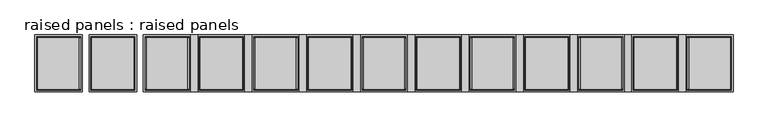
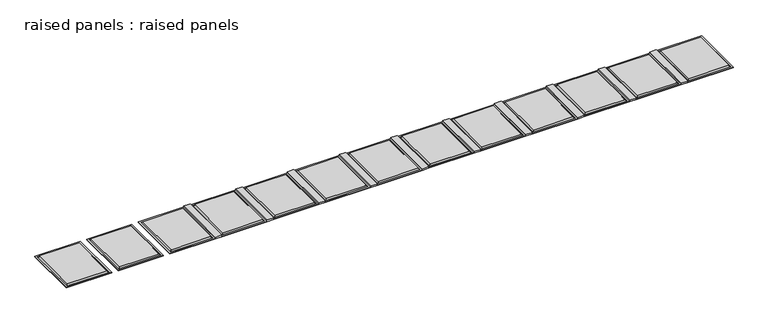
"""IFC4 building model written with IfcOpenShell, lengths in millimetres: furniture geometry, raised panels : raised panels."""

from ifc_helpers import new_model, si_unit, frame, origin, origin_with_axes, place, context, project, spatial, polyline, ellipse_curve, outline, extrude, source, transform, mapped, element, save
from ifc_brep_helpers import plane_surface, revolved_surface, advanced_brep


def raised_panels_raised_panels_2e637103(model_context):
    return source(origin(), model_context, "Body", "SolidModel", [
        advanced_brep(
        [(8426.45, 209.55, 19.05), (8426.45, 781.05, 19.05), (7961.9928571, 781.05, 19.05), (7961.9928571, 209.55, 19.05), (8458.2, 812.8, 0.0), (8458.2, 177.8, 0.0), (7930.2428571, 177.8, 0.0), (7930.2428571, 812.8, 0.0), (7930.2428571, 812.8, 6.35), (8458.2, 812.8, 6.35), (7930.2428571, 177.8, 6.35), (8458.2, 177.8, 6.35), (8439.15, 196.85, 6.35), (8439.15, 793.75, 6.35), (7949.2928571, 793.75, 6.35), (7949.2928571, 196.85, 6.35)],
        [
            (0, 1),
            (1, 2),
            (2, 3),
            (3, 0),
            (4, 5),
            (5, 6),
            (6, 7),
            (7, 4),
            (7, 8),
            (8, 9),
            (9, 4),
            (6, 10),
            (10, 8),
            (5, 11),
            (11, 10),
            (9, 11),
            (12, 13),
            (13, 1, ellipse_curve(frame((8439.15, 793.75, 19.05), z_axis=(-0.7071067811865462, 0.7071067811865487, 0.0), x_axis=(-0.7071067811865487, -0.7071067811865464, 0.0)), 17.9605122, 12.7)),
            (0, 12, ellipse_curve(frame((8439.15, 196.85, 19.05), z_axis=(-0.7071067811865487, -0.7071067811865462, 0.0), x_axis=(0.7071067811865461, -0.7071067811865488, 0.0)), 17.9605122, 12.7)),
            (13, 14),
            (14, 2, ellipse_curve(frame((7949.2928571, 793.75, 19.05), z_axis=(-0.7071067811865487, -0.7071067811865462, 0.0), x_axis=(0.7071067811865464, -0.7071067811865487, 0.0)), 17.9605122, 12.7)),
            (14, 15),
            (15, 3, ellipse_curve(frame((7949.2928571, 196.85, 19.05), z_axis=(0.7071067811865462, -0.7071067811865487, 0.0), x_axis=(0.7071067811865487, 0.7071067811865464, 0.0)), 17.9605122, 12.7)),
            (15, 12),
        ],
        [
            plane_surface(frame((8458.2, 812.8, 19.05), z_axis=(0.0, 0.0, 1.0), x_axis=(-1.0, 0.0, 0.0))),
            plane_surface(frame((8458.2, 812.8, 0.0), z_axis=(0.0, 0.0, -1.0), x_axis=(1.0, 0.0, 0.0))),
            plane_surface(frame((8458.2, 812.8, 19.05), z_axis=(0.0, 1.0, 0.0), x_axis=(0.0, 0.0, -1.0))),
            plane_surface(frame((7930.2428571, 812.8, 19.05), z_axis=(-1.0, 0.0, 0.0), x_axis=(0.0, 0.0, -1.0))),
            plane_surface(frame((7930.2428571, 177.8, 19.05), z_axis=(0.0, -1.0, 0.0), x_axis=(0.0, 0.0, -1.0))),
            plane_surface(frame((8458.2, 177.8, 19.05), z_axis=(1.0, 0.0, 0.0), x_axis=(0.0, 0.0, -1.0))),
            revolved_surface(polyline([(8426.449999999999, 184.15000002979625, 19.05), (8426.449999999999, 806.4499999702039, 19.05)]), (8439.15, 177.8, 19.05), (0.0, -1.0, 0.0)),
            revolved_surface(polyline([(8451.849999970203, 781.05, 19.05), (7936.592857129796, 781.05, 19.05)]), (8458.2, 793.75, 19.05), (1.0, 0.0, 0.0)),
            revolved_surface(polyline([(7961.9928571, 806.4499999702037, 19.05), (7961.9928571, 184.15000002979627, 19.05)]), (7949.2928571, 812.8, 19.05), (0.0, 1.0, 0.0)),
            revolved_surface(polyline([(7936.592857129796, 209.54999999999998, 19.05), (8451.849999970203, 209.54999999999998, 19.05)]), (7930.2428571, 196.85, 19.05), (-1.0, 0.0, 0.0)),
            plane_surface(frame((7949.2928571, 196.85, 6.35), z_axis=(0.0, 0.0, 1.0), x_axis=(1.0, 0.0, 0.0))),
        ],
        [
            (0, [[1, 2, 3, 4]]),
            (1, [[5, 6, 7, 8]]),
            (2, [[-8, 9, 10, 11]]),
            (3, [[-7, 12, 13, -9]]),
            (4, [[-6, 14, 15, -12]]),
            (5, [[-5, -11, 16, -14]]),
            (6, [[17, 18, -1, 19]]),
            (7, [[-18, 20, 21, -2]]),
            (8, [[-21, 22, 23, -3]]),
            (9, [[-19, -4, -23, 24]]),
            (10, [[-10, -13, -15, -16], [-17, -24, -22, -20]]),
        ],
    ),
        advanced_brep(
        [(7822.2928571, 209.55, 19.05), (7822.2928571, 781.05, 19.05), (7357.8357143, 781.05, 19.05), (7357.8357143, 209.55, 19.05), (7854.0428571, 812.8, 0.0), (7854.0428571, 177.8, 0.0), (7326.0857143, 177.8, 0.0), (7326.0857143, 812.8, 0.0), (7326.0857143, 812.8, 6.35), (7854.0428571, 812.8, 6.35), (7326.0857143, 177.8, 6.35), (7854.0428571, 177.8, 6.35), (7834.9928571, 196.85, 6.35), (7834.9928571, 793.75, 6.35), (7345.1357143, 793.75, 6.35), (7345.1357143, 196.85, 6.35)],
        [
            (0, 1),
            (1, 2),
            (2, 3),
            (3, 0),
            (4, 5),
            (5, 6),
            (6, 7),
            (7, 4),
            (7, 8),
            (8, 9),
            (9, 4),
            (6, 10),
            (10, 8),
            (5, 11),
            (11, 10),
            (9, 11),
            (12, 13),
            (13, 1, ellipse_curve(frame((7834.9928571, 793.75, 19.05), z_axis=(-0.7071067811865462, 0.7071067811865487, 0.0), x_axis=(-0.7071067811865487, -0.7071067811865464, 0.0)), 17.9605122, 12.7)),
            (0, 12, ellipse_curve(frame((7834.9928571, 196.85, 19.05), z_axis=(-0.7071067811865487, -0.7071067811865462, 0.0), x_axis=(0.7071067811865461, -0.7071067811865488, 0.0)), 17.9605122, 12.7)),
            (13, 14),
            (14, 2, ellipse_curve(frame((7345.1357143, 793.75, 19.05), z_axis=(-0.7071067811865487, -0.7071067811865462, 0.0), x_axis=(0.7071067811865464, -0.7071067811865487, 0.0)), 17.9605122, 12.7)),
            (14, 15),
            (15, 3, ellipse_curve(frame((7345.1357143, 196.85, 19.05), z_axis=(0.7071067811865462, -0.7071067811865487, 0.0), x_axis=(0.7071067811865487, 0.7071067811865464, 0.0)), 17.9605122, 12.7)),
            (15, 12),
        ],
        [
            plane_surface(frame((7854.0428571, 812.8, 19.05), z_axis=(0.0, 0.0, 1.0), x_axis=(-1.0, 0.0, 0.0))),
            plane_surface(frame((7854.0428571, 812.8, 0.0), z_axis=(0.0, 0.0, -1.0), x_axis=(1.0, 0.0, 0.0))),
            plane_surface(frame((7854.0428571, 812.8, 19.05), z_axis=(0.0, 1.0, 0.0), x_axis=(0.0, 0.0, -1.0))),
            plane_surface(frame((7326.0857143, 812.8, 19.05), z_axis=(-1.0, 0.0, 0.0), x_axis=(0.0, 0.0, -1.0))),
            plane_surface(frame((7326.0857143, 177.8, 19.05), z_axis=(0.0, -1.0, 0.0), x_axis=(0.0, 0.0, -1.0))),
            plane_surface(frame((7854.0428571, 177.8, 19.05), z_axis=(1.0, 0.0, 0.0), x_axis=(0.0, 0.0, -1.0))),
            revolved_surface(polyline([(7822.2928571, 184.15000002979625, 19.05), (7822.2928571, 806.4499999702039, 19.05)]), (7834.9928571, 177.8, 19.05), (0.0, -1.0, 0.0)),
            revolved_surface(polyline([(7847.692857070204, 781.05, 19.05), (7332.435714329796, 781.05, 19.05)]), (7854.0428571, 793.75, 19.05), (1.0, 0.0, 0.0)),
            revolved_surface(polyline([(7357.835714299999, 806.4499999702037, 19.05), (7357.835714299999, 184.15000002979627, 19.05)]), (7345.1357143, 812.8, 19.05), (0.0, 1.0, 0.0)),
            revolved_surface(polyline([(7332.435714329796, 209.54999999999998, 19.05), (7847.692857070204, 209.54999999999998, 19.05)]), (7326.0857143, 196.85, 19.05), (-1.0, 0.0, 0.0)),
            plane_surface(frame((7345.1357143, 196.85, 6.35), z_axis=(0.0, 0.0, 1.0), x_axis=(1.0, 0.0, 0.0))),
        ],
        [
            (0, [[1, 2, 3, 4]]),
            (1, [[5, 6, 7, 8]]),
            (2, [[-8, 9, 10, 11]]),
            (3, [[-7, 12, 13, -9]]),
            (4, [[-6, 14, 15, -12]]),
            (5, [[-5, -11, 16, -14]]),
            (6, [[17, 18, -1, 19]]),
            (7, [[-18, 20, 21, -2]]),
            (8, [[-21, 22, 23, -3]]),
            (9, [[-19, -4, -23, 24]]),
            (10, [[-10, -13, -15, -16], [-17, -24, -22, -20]]),
        ],
    ),
        advanced_brep(
        [(7218.1357143, 209.55, 19.05), (7218.1357143, 781.05, 19.05), (6753.6785714, 781.05, 19.05), (6753.6785714, 209.55, 19.05), (7249.8857143, 812.8, 0.0), (7249.8857143, 177.8, 0.0), (6721.9285714, 177.8, 0.0), (6721.9285714, 812.8, 0.0), (6721.9285714, 812.8, 6.35), (7249.8857143, 812.8, 6.35), (6721.9285714, 177.8, 6.35), (7249.8857143, 177.8, 6.35), (7230.8357143, 196.85, 6.35), (7230.8357143, 793.75, 6.35), (6740.9785714, 793.75, 6.35), (6740.9785714, 196.85, 6.35)],
        [
            (0, 1),
            (1, 2),
            (2, 3),
            (3, 0),
            (4, 5),
            (5, 6),
            (6, 7),
            (7, 4),
            (7, 8),
            (8, 9),
            (9, 4),
            (6, 10),
            (10, 8),
            (5, 11),
            (11, 10),
            (9, 11),
            (12, 13),
            (13, 1, ellipse_curve(frame((7230.8357143, 793.75, 19.05), z_axis=(-0.7071067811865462, 0.7071067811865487, 0.0), x_axis=(-0.7071067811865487, -0.7071067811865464, 0.0)), 17.9605122, 12.7)),
            (0, 12, ellipse_curve(frame((7230.8357143, 196.85, 19.05), z_axis=(-0.7071067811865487, -0.7071067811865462, 0.0), x_axis=(0.7071067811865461, -0.7071067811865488, 0.0)), 17.9605122, 12.7)),
            (13, 14),
            (14, 2, ellipse_curve(frame((6740.9785714, 793.75, 19.05), z_axis=(-0.7071067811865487, -0.7071067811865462, 0.0), x_axis=(0.7071067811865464, -0.7071067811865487, 0.0)), 17.9605122, 12.7)),
            (14, 15),
            (15, 3, ellipse_curve(frame((6740.9785714, 196.85, 19.05), z_axis=(0.7071067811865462, -0.7071067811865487, 0.0), x_axis=(0.7071067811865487, 0.7071067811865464, 0.0)), 17.9605122, 12.7)),
            (15, 12),
        ],
        [
            plane_surface(frame((7249.8857143, 812.8, 19.05), z_axis=(0.0, 0.0, 1.0), x_axis=(-1.0, 0.0, 0.0))),
            plane_surface(frame((7249.8857143, 812.8, 0.0), z_axis=(0.0, 0.0, -1.0), x_axis=(1.0, 0.0, 0.0))),
            plane_surface(frame((7249.8857143, 812.8, 19.05), z_axis=(0.0, 1.0, 0.0), x_axis=(0.0, 0.0, -1.0))),
            plane_surface(frame((6721.9285714, 812.8, 19.05), z_axis=(-1.0, 0.0, 0.0), x_axis=(0.0, 0.0, -1.0))),
            plane_surface(frame((6721.9285714, 177.8, 19.05), z_axis=(0.0, -1.0, 0.0), x_axis=(0.0, 0.0, -1.0))),
            plane_surface(frame((7249.8857143, 177.8, 19.05), z_axis=(1.0, 0.0, 0.0), x_axis=(0.0, 0.0, -1.0))),
            revolved_surface(polyline([(7218.1357143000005, 184.15000002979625, 19.05), (7218.1357143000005, 806.4499999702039, 19.05)]), (7230.8357143, 177.8, 19.05), (0.0, -1.0, 0.0)),
            revolved_surface(polyline([(7243.535714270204, 781.05, 19.05), (6728.278571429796, 781.05, 19.05)]), (7249.8857143, 793.75, 19.05), (1.0, 0.0, 0.0)),
            revolved_surface(polyline([(6753.6785714, 806.4499999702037, 19.05), (6753.6785714, 184.15000002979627, 19.05)]), (6740.9785714, 812.8, 19.05), (0.0, 1.0, 0.0)),
            revolved_surface(polyline([(6728.278571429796, 209.54999999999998, 19.05), (7243.535714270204, 209.54999999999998, 19.05)]), (6721.9285714, 196.85, 19.05), (-1.0, 0.0, 0.0)),
            plane_surface(frame((6740.9785714, 196.85, 6.35), z_axis=(0.0, 0.0, 1.0), x_axis=(1.0, 0.0, 0.0))),
        ],
        [
            (0, [[1, 2, 3, 4]]),
            (1, [[5, 6, 7, 8]]),
            (2, [[-8, 9, 10, 11]]),
            (3, [[-7, 12, 13, -9]]),
            (4, [[-6, 14, 15, -12]]),
            (5, [[-5, -11, 16, -14]]),
            (6, [[17, 18, -1, 19]]),
            (7, [[-18, 20, 21, -2]]),
            (8, [[-21, 22, 23, -3]]),
            (9, [[-19, -4, -23, 24]]),
            (10, [[-10, -13, -15, -16], [-17, -24, -22, -20]]),
        ],
    ),
        advanced_brep(
        [(6613.9785714, 209.55, 19.05), (6613.9785714, 781.05, 19.05), (6149.5214286, 781.05, 19.05), (6149.5214286, 209.55, 19.05), (6645.7285714, 812.8, 0.0), (6645.7285714, 177.8, 0.0), (6117.7714286, 177.8, 0.0), (6117.7714286, 812.8, 0.0), (6117.7714286, 812.8, 6.35), (6645.7285714, 812.8, 6.35), (6117.7714286, 177.8, 6.35), (6645.7285714, 177.8, 6.35), (6626.6785714, 196.85, 6.35), (6626.6785714, 793.75, 6.35), (6136.8214286, 793.75, 6.35), (6136.8214286, 196.85, 6.35)],
        [
            (0, 1),
            (1, 2),
            (2, 3),
            (3, 0),
            (4, 5),
            (5, 6),
            (6, 7),
            (7, 4),
            (7, 8),
            (8, 9),
            (9, 4),
            (6, 10),
            (10, 8),
            (5, 11),
            (11, 10),
            (9, 11),
            (12, 13),
            (13, 1, ellipse_curve(frame((6626.6785714, 793.75, 19.05), z_axis=(-0.7071067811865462, 0.7071067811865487, 0.0), x_axis=(-0.7071067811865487, -0.7071067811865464, 0.0)), 17.9605122, 12.7)),
            (0, 12, ellipse_curve(frame((6626.6785714, 196.85, 19.05), z_axis=(-0.7071067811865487, -0.7071067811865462, 0.0), x_axis=(0.7071067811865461, -0.7071067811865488, 0.0)), 17.9605122, 12.7)),
            (13, 14),
            (14, 2, ellipse_curve(frame((6136.8214286, 793.75, 19.05), z_axis=(-0.7071067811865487, -0.7071067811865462, 0.0), x_axis=(0.7071067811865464, -0.7071067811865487, 0.0)), 17.9605122, 12.7)),
            (14, 15),
            (15, 3, ellipse_curve(frame((6136.8214286, 196.85, 19.05), z_axis=(0.7071067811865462, -0.7071067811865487, 0.0), x_axis=(0.7071067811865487, 0.7071067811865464, 0.0)), 17.9605122, 12.7)),
            (15, 12),
        ],
        [
            plane_surface(frame((6645.7285714, 812.8, 19.05), z_axis=(0.0, 0.0, 1.0), x_axis=(-1.0, 0.0, 0.0))),
            plane_surface(frame((6645.7285714, 812.8, 0.0), z_axis=(0.0, 0.0, -1.0), x_axis=(1.0, 0.0, 0.0))),
            plane_surface(frame((6645.7285714, 812.8, 19.05), z_axis=(0.0, 1.0, 0.0), x_axis=(0.0, 0.0, -1.0))),
            plane_surface(frame((6117.7714286, 812.8, 19.05), z_axis=(-1.0, 0.0, 0.0), x_axis=(0.0, 0.0, -1.0))),
            plane_surface(frame((6117.7714286, 177.8, 19.05), z_axis=(0.0, -1.0, 0.0), x_axis=(0.0, 0.0, -1.0))),
            plane_surface(frame((6645.7285714, 177.8, 19.05), z_axis=(1.0, 0.0, 0.0), x_axis=(0.0, 0.0, -1.0))),
            revolved_surface(polyline([(6613.9785714, 184.15000002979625, 19.05), (6613.9785714, 806.4499999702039, 19.05)]), (6626.6785714, 177.8, 19.05), (0.0, -1.0, 0.0)),
            revolved_surface(polyline([(6639.378571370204, 781.05, 19.05), (6124.121428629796, 781.05, 19.05)]), (6645.7285714, 793.75, 19.05), (1.0, 0.0, 0.0)),
            revolved_surface(polyline([(6149.5214286, 806.4499999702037, 19.05), (6149.5214286, 184.15000002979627, 19.05)]), (6136.8214286, 812.8, 19.05), (0.0, 1.0, 0.0)),
            revolved_surface(polyline([(6124.121428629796, 209.54999999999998, 19.05), (6639.378571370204, 209.54999999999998, 19.05)]), (6117.7714286, 196.85, 19.05), (-1.0, 0.0, 0.0)),
            plane_surface(frame((6136.8214286, 196.85, 6.35), z_axis=(0.0, 0.0, 1.0), x_axis=(1.0, 0.0, 0.0))),
        ],
        [
            (0, [[1, 2, 3, 4]]),
            (1, [[5, 6, 7, 8]]),
            (2, [[-8, 9, 10, 11]]),
            (3, [[-7, 12, 13, -9]]),
            (4, [[-6, 14, 15, -12]]),
            (5, [[-5, -11, 16, -14]]),
            (6, [[17, 18, -1, 19]]),
            (7, [[-18, 20, 21, -2]]),
            (8, [[-21, 22, 23, -3]]),
            (9, [[-19, -4, -23, 24]]),
            (10, [[-10, -13, -15, -16], [-17, -24, -22, -20]]),
        ],
    ),
        advanced_brep(
        [(6009.8214286, 209.55, 19.05), (6009.8214286, 781.05, 19.05), (5545.3642857, 781.05, 19.05), (5545.3642857, 209.55, 19.05), (6041.5714286, 812.8, 0.0), (6041.5714286, 177.8, 0.0), (5513.6142857, 177.8, 0.0), (5513.6142857, 812.8, 0.0), (5513.6142857, 812.8, 6.35), (6041.5714286, 812.8, 6.35), (5513.6142857, 177.8, 6.35), (6041.5714286, 177.8, 6.35), (6022.5214286, 196.85, 6.35), (6022.5214286, 793.75, 6.35), (5532.6642857, 793.75, 6.35), (5532.6642857, 196.85, 6.35)],
        [
            (0, 1),
            (1, 2),
            (2, 3),
            (3, 0),
            (4, 5),
            (5, 6),
            (6, 7),
            (7, 4),
            (7, 8),
            (8, 9),
            (9, 4),
            (6, 10),
            (10, 8),
            (5, 11),
            (11, 10),
            (9, 11),
            (12, 13),
            (13, 1, ellipse_curve(frame((6022.5214286, 793.75, 19.05), z_axis=(-0.7071067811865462, 0.7071067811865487, 0.0), x_axis=(-0.7071067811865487, -0.7071067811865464, 0.0)), 17.9605122, 12.7)),
            (0, 12, ellipse_curve(frame((6022.5214286, 196.85, 19.05), z_axis=(-0.7071067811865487, -0.7071067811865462, 0.0), x_axis=(0.7071067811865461, -0.7071067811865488, 0.0)), 17.9605122, 12.7)),
            (13, 14),
            (14, 2, ellipse_curve(frame((5532.6642857, 793.75, 19.05), z_axis=(-0.7071067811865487, -0.7071067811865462, 0.0), x_axis=(0.7071067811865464, -0.7071067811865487, 0.0)), 17.9605122, 12.7)),
            (14, 15),
            (15, 3, ellipse_curve(frame((5532.6642857, 196.85, 19.05), z_axis=(0.7071067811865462, -0.7071067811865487, 0.0), x_axis=(0.7071067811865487, 0.7071067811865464, 0.0)), 17.9605122, 12.7)),
            (15, 12),
        ],
        [
            plane_surface(frame((6041.5714286, 812.8, 19.05), z_axis=(0.0, 0.0, 1.0), x_axis=(-1.0, 0.0, 0.0))),
            plane_surface(frame((6041.5714286, 812.8, 0.0), z_axis=(0.0, 0.0, -1.0), x_axis=(1.0, 0.0, 0.0))),
            plane_surface(frame((6041.5714286, 812.8, 19.05), z_axis=(0.0, 1.0, 0.0), x_axis=(0.0, 0.0, -1.0))),
            plane_surface(frame((5513.6142857, 812.8, 19.05), z_axis=(-1.0, 0.0, 0.0), x_axis=(0.0, 0.0, -1.0))),
            plane_surface(frame((5513.6142857, 177.8, 19.05), z_axis=(0.0, -1.0, 0.0), x_axis=(0.0, 0.0, -1.0))),
            plane_surface(frame((6041.5714286, 177.8, 19.05), z_axis=(1.0, 0.0, 0.0), x_axis=(0.0, 0.0, -1.0))),
            revolved_surface(polyline([(6009.8214286, 184.15000002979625, 19.05), (6009.8214286, 806.4499999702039, 19.05)]), (6022.5214286, 177.8, 19.05), (0.0, -1.0, 0.0)),
            revolved_surface(polyline([(6035.221428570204, 781.05, 19.05), (5519.964285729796, 781.05, 19.05)]), (6041.5714286, 793.75, 19.05), (1.0, 0.0, 0.0)),
            revolved_surface(polyline([(5545.3642856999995, 806.4499999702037, 19.05), (5545.3642856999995, 184.15000002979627, 19.05)]), (5532.6642857, 812.8, 19.05), (0.0, 1.0, 0.0)),
            revolved_surface(polyline([(5519.964285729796, 209.54999999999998, 19.05), (6035.221428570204, 209.54999999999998, 19.05)]), (5513.6142857, 196.85, 19.05), (-1.0, 0.0, 0.0)),
            plane_surface(frame((5532.6642857, 196.85, 6.35), z_axis=(0.0, 0.0, 1.0), x_axis=(1.0, 0.0, 0.0))),
        ],
        [
            (0, [[1, 2, 3, 4]]),
            (1, [[5, 6, 7, 8]]),
            (2, [[-8, 9, 10, 11]]),
            (3, [[-7, 12, 13, -9]]),
            (4, [[-6, 14, 15, -12]]),
            (5, [[-5, -11, 16, -14]]),
            (6, [[17, 18, -1, 19]]),
            (7, [[-18, 20, 21, -2]]),
            (8, [[-21, 22, 23, -3]]),
            (9, [[-19, -4, -23, 24]]),
            (10, [[-10, -13, -15, -16], [-17, -24, -22, -20]]),
        ],
    ),
        advanced_brep(
        [(5405.6642857, 209.55, 19.05), (5405.6642857, 781.05, 19.05), (4941.2071429, 781.05, 19.05), (4941.2071429, 209.55, 19.05), (5437.4142857, 812.8, 0.0), (5437.4142857, 177.8, 0.0), (4909.4571429, 177.8, 0.0), (4909.4571429, 812.8, 0.0), (4909.4571429, 812.8, 6.35), (5437.4142857, 812.8, 6.35), (4909.4571429, 177.8, 6.35), (5437.4142857, 177.8, 6.35), (5418.3642857, 196.85, 6.35), (5418.3642857, 793.75, 6.35), (4928.5071429, 793.75, 6.35), (4928.5071429, 196.85, 6.35)],
        [
            (0, 1),
            (1, 2),
            (2, 3),
            (3, 0),
            (4, 5),
            (5, 6),
            (6, 7),
            (7, 4),
            (7, 8),
            (8, 9),
            (9, 4),
            (6, 10),
            (10, 8),
            (5, 11),
            (11, 10),
            (9, 11),
            (12, 13),
            (13, 1, ellipse_curve(frame((5418.3642857, 793.75, 19.05), z_axis=(-0.7071067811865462, 0.7071067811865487, 0.0), x_axis=(-0.7071067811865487, -0.7071067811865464, 0.0)), 17.9605122, 12.7)),
            (0, 12, ellipse_curve(frame((5418.3642857, 196.85, 19.05), z_axis=(-0.7071067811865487, -0.7071067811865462, 0.0), x_axis=(0.7071067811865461, -0.7071067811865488, 0.0)), 17.9605122, 12.7)),
            (13, 14),
            (14, 2, ellipse_curve(frame((4928.5071429, 793.75, 19.05), z_axis=(-0.7071067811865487, -0.7071067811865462, 0.0), x_axis=(0.7071067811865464, -0.7071067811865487, 0.0)), 17.9605122, 12.7)),
            (14, 15),
            (15, 3, ellipse_curve(frame((4928.5071429, 196.85, 19.05), z_axis=(0.7071067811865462, -0.7071067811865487, 0.0), x_axis=(0.7071067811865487, 0.7071067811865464, 0.0)), 17.9605122, 12.7)),
            (15, 12),
        ],
        [
            plane_surface(frame((5437.4142857, 812.8, 19.05), z_axis=(0.0, 0.0, 1.0), x_axis=(-1.0, 0.0, 0.0))),
            plane_surface(frame((5437.4142857, 812.8, 0.0), z_axis=(0.0, 0.0, -1.0), x_axis=(1.0, 0.0, 0.0))),
            plane_surface(frame((5437.4142857, 812.8, 19.05), z_axis=(0.0, 1.0, 0.0), x_axis=(0.0, 0.0, -1.0))),
            plane_surface(frame((4909.4571429, 812.8, 19.05), z_axis=(-1.0, 0.0, 0.0), x_axis=(0.0, 0.0, -1.0))),
            plane_surface(frame((4909.4571429, 177.8, 19.05), z_axis=(0.0, -1.0, 0.0), x_axis=(0.0, 0.0, -1.0))),
            plane_surface(frame((5437.4142857, 177.8, 19.05), z_axis=(1.0, 0.0, 0.0), x_axis=(0.0, 0.0, -1.0))),
            revolved_surface(polyline([(5405.664285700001, 184.15000002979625, 19.05), (5405.664285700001, 806.4499999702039, 19.05)]), (5418.3642857, 177.8, 19.05), (0.0, -1.0, 0.0)),
            revolved_surface(polyline([(5431.064285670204, 781.05, 19.05), (4915.807142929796, 781.05, 19.05)]), (5437.4142857, 793.75, 19.05), (1.0, 0.0, 0.0)),
            revolved_surface(polyline([(4941.2071429, 806.4499999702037, 19.05), (4941.2071429, 184.15000002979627, 19.05)]), (4928.5071429, 812.8, 19.05), (0.0, 1.0, 0.0)),
            revolved_surface(polyline([(4915.807142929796, 209.54999999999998, 19.05), (5431.064285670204, 209.54999999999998, 19.05)]), (4909.4571429, 196.85, 19.05), (-1.0, 0.0, 0.0)),
            plane_surface(frame((4928.5071429, 196.85, 6.35), z_axis=(0.0, 0.0, 1.0), x_axis=(1.0, 0.0, 0.0))),
        ],
        [
            (0, [[1, 2, 3, 4]]),
            (1, [[5, 6, 7, 8]]),
            (2, [[-8, 9, 10, 11]]),
            (3, [[-7, 12, 13, -9]]),
            (4, [[-6, 14, 15, -12]]),
            (5, [[-5, -11, 16, -14]]),
            (6, [[17, 18, -1, 19]]),
            (7, [[-18, 20, 21, -2]]),
            (8, [[-21, 22, 23, -3]]),
            (9, [[-19, -4, -23, 24]]),
            (10, [[-10, -13, -15, -16], [-17, -24, -22, -20]]),
        ],
    ),
        advanced_brep(
        [(4801.5071429, 209.55, 19.05), (4801.5071429, 781.05, 19.05), (4337.05, 781.05, 19.05), (4337.05, 209.55, 19.05), (4833.2571429, 812.8, 0.0), (4833.2571429, 177.8, 0.0), (4305.3, 177.8, 0.0), (4305.3, 812.8, 0.0), (4305.3, 812.8, 6.35), (4833.2571429, 812.8, 6.35), (4305.3, 177.8, 6.35), (4833.2571429, 177.8, 6.35), (4814.2071429, 196.85, 6.35), (4814.2071429, 793.75, 6.35), (4324.35, 793.75, 6.35), (4324.35, 196.85, 6.35)],
        [
            (0, 1),
            (1, 2),
            (2, 3),
            (3, 0),
            (4, 5),
            (5, 6),
            (6, 7),
            (7, 4),
            (7, 8),
            (8, 9),
            (9, 4),
            (6, 10),
            (10, 8),
            (5, 11),
            (11, 10),
            (9, 11),
            (12, 13),
            (13, 1, ellipse_curve(frame((4814.2071429, 793.75, 19.05), z_axis=(-0.7071067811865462, 0.7071067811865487, 0.0), x_axis=(-0.7071067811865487, -0.7071067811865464, 0.0)), 17.9605122, 12.7)),
            (0, 12, ellipse_curve(frame((4814.2071429, 196.85, 19.05), z_axis=(-0.7071067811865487, -0.7071067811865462, 0.0), x_axis=(0.7071067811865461, -0.7071067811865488, 0.0)), 17.9605122, 12.7)),
            (13, 14),
            (14, 2, ellipse_curve(frame((4324.35, 793.75, 19.05), z_axis=(-0.7071067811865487, -0.7071067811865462, 0.0), x_axis=(0.7071067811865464, -0.7071067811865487, 0.0)), 17.9605122, 12.7)),
            (14, 15),
            (15, 3, ellipse_curve(frame((4324.35, 196.85, 19.05), z_axis=(0.7071067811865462, -0.7071067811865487, 0.0), x_axis=(0.7071067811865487, 0.7071067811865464, 0.0)), 17.9605122, 12.7)),
            (15, 12),
        ],
        [
            plane_surface(frame((4833.2571429, 812.8, 19.05), z_axis=(0.0, 0.0, 1.0), x_axis=(-1.0, 0.0, 0.0))),
            plane_surface(frame((4833.2571429, 812.8, 0.0), z_axis=(0.0, 0.0, -1.0), x_axis=(1.0, 0.0, 0.0))),
            plane_surface(frame((4833.2571429, 812.8, 19.05), z_axis=(0.0, 1.0, 0.0), x_axis=(0.0, 0.0, -1.0))),
            plane_surface(frame((4305.3, 812.8, 19.05), z_axis=(-1.0, 0.0, 0.0), x_axis=(0.0, 0.0, -1.0))),
            plane_surface(frame((4305.3, 177.8, 19.05), z_axis=(0.0, -1.0, 0.0), x_axis=(0.0, 0.0, -1.0))),
            plane_surface(frame((4833.2571429, 177.8, 19.05), z_axis=(1.0, 0.0, 0.0), x_axis=(0.0, 0.0, -1.0))),
            revolved_surface(polyline([(4801.5071429, 184.15000002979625, 19.05), (4801.5071429, 806.4499999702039, 19.05)]), (4814.2071429, 177.8, 19.05), (0.0, -1.0, 0.0)),
            revolved_surface(polyline([(4826.907142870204, 781.05, 19.05), (4311.6500000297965, 781.05, 19.05)]), (4833.2571429, 793.75, 19.05), (1.0, 0.0, 0.0)),
            revolved_surface(polyline([(4337.05, 806.4499999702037, 19.05), (4337.05, 184.15000002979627, 19.05)]), (4324.35, 812.8, 19.05), (0.0, 1.0, 0.0)),
            revolved_surface(polyline([(4311.6500000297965, 209.54999999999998, 19.05), (4826.907142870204, 209.54999999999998, 19.05)]), (4305.3, 196.85, 19.05), (-1.0, 0.0, 0.0)),
            plane_surface(frame((4324.35, 196.85, 6.35), z_axis=(0.0, 0.0, 1.0), x_axis=(1.0, 0.0, 0.0))),
        ],
        [
            (0, [[1, 2, 3, 4]]),
            (1, [[5, 6, 7, 8]]),
            (2, [[-8, 9, 10, 11]]),
            (3, [[-7, 12, 13, -9]]),
            (4, [[-6, 14, 15, -12]]),
            (5, [[-5, -11, 16, -14]]),
            (6, [[17, 18, -1, 19]]),
            (7, [[-18, 20, 21, -2]]),
            (8, [[-21, 22, 23, -3]]),
            (9, [[-19, -4, -23, 24]]),
            (10, [[-10, -13, -15, -16], [-17, -24, -22, -20]]),
        ],
    ),
        extrude(outline(polyline([(7930.2428571, 177.8), (7854.0428571, 177.8), (7854.0428571, 812.8), (7930.2428571, 812.8), (7930.2428571, 177.8)])), origin_with_axes(), (0.0, 0.0, 1.0), 19.05),
        extrude(outline(polyline([(7326.0857143, 177.8), (7249.8857143, 177.8), (7249.8857143, 812.8), (7326.0857143, 812.8), (7326.0857143, 177.8)])), origin_with_axes(), (0.0, 0.0, 1.0), 19.05),
        extrude(outline(polyline([(6721.9285714, 177.8), (6645.7285714, 177.8), (6645.7285714, 812.8), (6721.9285714, 812.8), (6721.9285714, 177.8)])), origin_with_axes(), (0.0, 0.0, 1.0), 19.05),
        extrude(outline(polyline([(6117.7714286, 177.8), (6041.5714286, 177.8), (6041.5714286, 812.8), (6117.7714286, 812.8), (6117.7714286, 177.8)])), origin_with_axes(), (0.0, 0.0, 1.0), 19.05),
        extrude(outline(polyline([(5513.6142857, 177.8), (5437.4142857, 177.8), (5437.4142857, 812.8), (5513.6142857, 812.8), (5513.6142857, 177.8)])), origin_with_axes(), (0.0, 0.0, 1.0), 19.05),
        extrude(outline(polyline([(4909.4571429, 177.8), (4833.2571429, 177.8), (4833.2571429, 812.8), (4909.4571429, 812.8), (4909.4571429, 177.8)])), origin_with_axes(), (0.0, 0.0, 1.0), 19.05),
        extrude(outline(polyline([(4305.3, 177.8), (4229.1, 177.8), (4229.1, 812.8), (4305.3, 812.8), (4305.3, 177.8)])), origin_with_axes(), (0.0, 0.0, 1.0), 19.05),
        advanced_brep(
        [(4197.35, 209.55, 19.05), (4197.35, 781.05, 19.05), (3732.8928571, 781.05, 19.05), (3732.8928571, 209.55, 19.05), (4229.1, 812.8, 0.0), (4229.1, 177.8, 0.0), (3701.1428571, 177.8, 0.0), (3701.1428571, 812.8, 0.0), (3701.1428571, 812.8, 6.35), (4229.1, 812.8, 6.35), (3701.1428571, 177.8, 6.35), (4229.1, 177.8, 6.35), (4210.05, 196.85, 6.35), (4210.05, 793.75, 6.35), (3720.1928571, 793.75, 6.35), (3720.1928571, 196.85, 6.35)],
        [
            (0, 1),
            (1, 2),
            (2, 3),
            (3, 0),
            (4, 5),
            (5, 6),
            (6, 7),
            (7, 4),
            (7, 8),
            (8, 9),
            (9, 4),
            (6, 10),
            (10, 8),
            (5, 11),
            (11, 10),
            (9, 11),
            (12, 13),
            (13, 1, ellipse_curve(frame((4210.05, 793.75, 19.05), z_axis=(-0.7071067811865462, 0.7071067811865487, 0.0), x_axis=(-0.7071067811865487, -0.7071067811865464, 0.0)), 17.9605122, 12.7)),
            (0, 12, ellipse_curve(frame((4210.05, 196.85, 19.05), z_axis=(-0.7071067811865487, -0.7071067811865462, 0.0), x_axis=(0.7071067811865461, -0.7071067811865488, 0.0)), 17.9605122, 12.7)),
            (13, 14),
            (14, 2, ellipse_curve(frame((3720.1928571, 793.75, 19.05), z_axis=(-0.7071067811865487, -0.7071067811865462, 0.0), x_axis=(0.7071067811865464, -0.7071067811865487, 0.0)), 17.9605122, 12.7)),
            (14, 15),
            (15, 3, ellipse_curve(frame((3720.1928571, 196.85, 19.05), z_axis=(0.7071067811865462, -0.7071067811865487, 0.0), x_axis=(0.7071067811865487, 0.7071067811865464, 0.0)), 17.9605122, 12.7)),
            (15, 12),
        ],
        [
            plane_surface(frame((4229.1, 812.8, 19.05), z_axis=(0.0, 0.0, 1.0), x_axis=(-1.0, 0.0, 0.0))),
            plane_surface(frame((4229.1, 812.8, 0.0), z_axis=(0.0, 0.0, -1.0), x_axis=(1.0, 0.0, 0.0))),
            plane_surface(frame((4229.1, 812.8, 19.05), z_axis=(0.0, 1.0, 0.0), x_axis=(0.0, 0.0, -1.0))),
            plane_surface(frame((3701.1428571, 812.8, 19.05), z_axis=(-1.0, 0.0, 0.0), x_axis=(0.0, 0.0, -1.0))),
            plane_surface(frame((3701.1428571, 177.8, 19.05), z_axis=(0.0, -1.0, 0.0), x_axis=(0.0, 0.0, -1.0))),
            plane_surface(frame((4229.1, 177.8, 19.05), z_axis=(1.0, 0.0, 0.0), x_axis=(0.0, 0.0, -1.0))),
            revolved_surface(polyline([(4197.35, 184.15000002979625, 19.05), (4197.35, 806.4499999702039, 19.05)]), (4210.05, 177.8, 19.05), (0.0, -1.0, 0.0)),
            revolved_surface(polyline([(4222.749999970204, 781.05, 19.05), (3707.492857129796, 781.05, 19.05)]), (4229.1, 793.75, 19.05), (1.0, 0.0, 0.0)),
            revolved_surface(polyline([(3732.8928570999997, 806.4499999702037, 19.05), (3732.8928570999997, 184.15000002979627, 19.05)]), (3720.1928571, 812.8, 19.05), (0.0, 1.0, 0.0)),
            revolved_surface(polyline([(3707.492857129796, 209.54999999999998, 19.05), (4222.749999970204, 209.54999999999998, 19.05)]), (3701.1428571, 196.85, 19.05), (-1.0, 0.0, 0.0)),
            plane_surface(frame((3720.1928571, 196.85, 6.35), z_axis=(0.0, 0.0, 1.0), x_axis=(1.0, 0.0, 0.0))),
        ],
        [
            (0, [[1, 2, 3, 4]]),
            (1, [[5, 6, 7, 8]]),
            (2, [[-8, 9, 10, 11]]),
            (3, [[-7, 12, 13, -9]]),
            (4, [[-6, 14, 15, -12]]),
            (5, [[-5, -11, 16, -14]]),
            (6, [[17, 18, -1, 19]]),
            (7, [[-18, 20, 21, -2]]),
            (8, [[-21, 22, 23, -3]]),
            (9, [[-19, -4, -23, 24]]),
            (10, [[-10, -13, -15, -16], [-17, -24, -22, -20]]),
        ],
    ),
        advanced_brep(
        [(3593.1928571, 209.55, 19.05), (3593.1928571, 781.05, 19.05), (3128.7357143, 781.05, 19.05), (3128.7357143, 209.55, 19.05), (3624.9428571, 812.8, 0.0), (3624.9428571, 177.8, 0.0), (3096.9857143, 177.8, 0.0), (3096.9857143, 812.8, 0.0), (3096.9857143, 812.8, 6.35), (3624.9428571, 812.8, 6.35), (3096.9857143, 177.8, 6.35), (3624.9428571, 177.8, 6.35), (3605.8928571, 196.85, 6.35), (3605.8928571, 793.75, 6.35), (3116.0357143, 793.75, 6.35), (3116.0357143, 196.85, 6.35)],
        [
            (0, 1),
            (1, 2),
            (2, 3),
            (3, 0),
            (4, 5),
            (5, 6),
            (6, 7),
            (7, 4),
            (7, 8),
            (8, 9),
            (9, 4),
            (6, 10),
            (10, 8),
            (5, 11),
            (11, 10),
            (9, 11),
            (12, 13),
            (13, 1, ellipse_curve(frame((3605.8928571, 793.75, 19.05), z_axis=(-0.7071067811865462, 0.7071067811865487, 0.0), x_axis=(-0.7071067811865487, -0.7071067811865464, 0.0)), 17.9605122, 12.7)),
            (0, 12, ellipse_curve(frame((3605.8928571, 196.85, 19.05), z_axis=(-0.7071067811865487, -0.7071067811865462, 0.0), x_axis=(0.7071067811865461, -0.7071067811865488, 0.0)), 17.9605122, 12.7)),
            (13, 14),
            (14, 2, ellipse_curve(frame((3116.0357143, 793.75, 19.05), z_axis=(-0.7071067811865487, -0.7071067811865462, 0.0), x_axis=(0.7071067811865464, -0.7071067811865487, 0.0)), 17.9605122, 12.7)),
            (14, 15),
            (15, 3, ellipse_curve(frame((3116.0357143, 196.85, 19.05), z_axis=(0.7071067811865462, -0.7071067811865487, 0.0), x_axis=(0.7071067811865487, 0.7071067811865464, 0.0)), 17.9605122, 12.7)),
            (15, 12),
        ],
        [
            plane_surface(frame((3624.9428571, 812.8, 19.05), z_axis=(0.0, 0.0, 1.0), x_axis=(-1.0, 0.0, 0.0))),
            plane_surface(frame((3624.9428571, 812.8, 0.0), z_axis=(0.0, 0.0, -1.0), x_axis=(1.0, 0.0, 0.0))),
            plane_surface(frame((3624.9428571, 812.8, 19.05), z_axis=(0.0, 1.0, 0.0), x_axis=(0.0, 0.0, -1.0))),
            plane_surface(frame((3096.9857143, 812.8, 19.05), z_axis=(-1.0, 0.0, 0.0), x_axis=(0.0, 0.0, -1.0))),
            plane_surface(frame((3096.9857143, 177.8, 19.05), z_axis=(0.0, -1.0, 0.0), x_axis=(0.0, 0.0, -1.0))),
            plane_surface(frame((3624.9428571, 177.8, 19.05), z_axis=(1.0, 0.0, 0.0), x_axis=(0.0, 0.0, -1.0))),
            revolved_surface(polyline([(3593.1928571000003, 184.15000002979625, 19.05), (3593.1928571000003, 806.4499999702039, 19.05)]), (3605.8928571, 177.8, 19.05), (0.0, -1.0, 0.0)),
            revolved_surface(polyline([(3618.592857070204, 781.05, 19.05), (3103.3357143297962, 781.05, 19.05)]), (3624.9428571, 793.75, 19.05), (1.0, 0.0, 0.0)),
            revolved_surface(polyline([(3128.7357143, 806.4499999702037, 19.05), (3128.7357143, 184.15000002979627, 19.05)]), (3116.0357143, 812.8, 19.05), (0.0, 1.0, 0.0)),
            revolved_surface(polyline([(3103.3357143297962, 209.54999999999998, 19.05), (3618.5928570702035, 209.54999999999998, 19.05)]), (3096.9857143, 196.85, 19.05), (-1.0, 0.0, 0.0)),
            plane_surface(frame((3116.0357143, 196.85, 6.35), z_axis=(0.0, 0.0, 1.0), x_axis=(1.0, 0.0, 0.0))),
        ],
        [
            (0, [[1, 2, 3, 4]]),
            (1, [[5, 6, 7, 8]]),
            (2, [[-8, 9, 10, 11]]),
            (3, [[-7, 12, 13, -9]]),
            (4, [[-6, 14, 15, -12]]),
            (5, [[-5, -11, 16, -14]]),
            (6, [[17, 18, -1, 19]]),
            (7, [[-18, 20, 21, -2]]),
            (8, [[-21, 22, 23, -3]]),
            (9, [[-19, -4, -23, 24]]),
            (10, [[-10, -13, -15, -16], [-17, -24, -22, -20]]),
        ],
    ),
        advanced_brep(
        [(2989.0357143, 209.55, 19.05), (2989.0357143, 781.05, 19.05), (2524.5785714, 781.05, 19.05), (2524.5785714, 209.55, 19.05), (3020.7857143, 812.8, 0.0), (3020.7857143, 177.8, 0.0), (2492.8285714, 177.8, 0.0), (2492.8285714, 812.8, 0.0), (2492.8285714, 812.8, 6.35), (3020.7857143, 812.8, 6.35), (2492.8285714, 177.8, 6.35), (3020.7857143, 177.8, 6.35), (3001.7357143, 196.85, 6.35), (3001.7357143, 793.75, 6.35), (2511.8785714, 793.75, 6.35), (2511.8785714, 196.85, 6.35)],
        [
            (0, 1),
            (1, 2),
            (2, 3),
            (3, 0),
            (4, 5),
            (5, 6),
            (6, 7),
            (7, 4),
            (7, 8),
            (8, 9),
            (9, 4),
            (6, 10),
            (10, 8),
            (5, 11),
            (11, 10),
            (9, 11),
            (12, 13),
            (13, 1, ellipse_curve(frame((3001.7357143, 793.75, 19.05), z_axis=(-0.7071067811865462, 0.7071067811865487, 0.0), x_axis=(-0.7071067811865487, -0.7071067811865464, 0.0)), 17.9605122, 12.7)),
            (0, 12, ellipse_curve(frame((3001.7357143, 196.85, 19.05), z_axis=(-0.7071067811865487, -0.7071067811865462, 0.0), x_axis=(0.7071067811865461, -0.7071067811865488, 0.0)), 17.9605122, 12.7)),
            (13, 14),
            (14, 2, ellipse_curve(frame((2511.8785714, 793.75, 19.05), z_axis=(-0.7071067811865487, -0.7071067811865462, 0.0), x_axis=(0.7071067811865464, -0.7071067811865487, 0.0)), 17.9605122, 12.7)),
            (14, 15),
            (15, 3, ellipse_curve(frame((2511.8785714, 196.85, 19.05), z_axis=(0.7071067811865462, -0.7071067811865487, 0.0), x_axis=(0.7071067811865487, 0.7071067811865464, 0.0)), 17.9605122, 12.7)),
            (15, 12),
        ],
        [
            plane_surface(frame((3020.7857143, 812.8, 19.05), z_axis=(0.0, 0.0, 1.0), x_axis=(-1.0, 0.0, 0.0))),
            plane_surface(frame((3020.7857143, 812.8, 0.0), z_axis=(0.0, 0.0, -1.0), x_axis=(1.0, 0.0, 0.0))),
            plane_surface(frame((3020.7857143, 812.8, 19.05), z_axis=(0.0, 1.0, 0.0), x_axis=(0.0, 0.0, -1.0))),
            plane_surface(frame((2492.8285714, 812.8, 19.05), z_axis=(-1.0, 0.0, 0.0), x_axis=(0.0, 0.0, -1.0))),
            plane_surface(frame((2492.8285714, 177.8, 19.05), z_axis=(0.0, -1.0, 0.0), x_axis=(0.0, 0.0, -1.0))),
            plane_surface(frame((3020.7857143, 177.8, 19.05), z_axis=(1.0, 0.0, 0.0), x_axis=(0.0, 0.0, -1.0))),
            revolved_surface(polyline([(2989.0357143, 184.15000002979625, 19.05), (2989.0357143, 806.4499999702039, 19.05)]), (3001.7357143, 177.8, 19.05), (0.0, -1.0, 0.0)),
            revolved_surface(polyline([(3014.435714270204, 781.05, 19.05), (2499.178571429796, 781.05, 19.05)]), (3020.7857143, 793.75, 19.05), (1.0, 0.0, 0.0)),
            revolved_surface(polyline([(2524.5785714, 806.4499999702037, 19.05), (2524.5785714, 184.15000002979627, 19.05)]), (2511.8785714, 812.8, 19.05), (0.0, 1.0, 0.0)),
            revolved_surface(polyline([(2499.178571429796, 209.54999999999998, 19.05), (3014.435714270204, 209.54999999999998, 19.05)]), (2492.8285714, 196.85, 19.05), (-1.0, 0.0, 0.0)),
            plane_surface(frame((2511.8785714, 196.85, 6.35), z_axis=(0.0, 0.0, 1.0), x_axis=(1.0, 0.0, 0.0))),
        ],
        [
            (0, [[1, 2, 3, 4]]),
            (1, [[5, 6, 7, 8]]),
            (2, [[-8, 9, 10, 11]]),
            (3, [[-7, 12, 13, -9]]),
            (4, [[-6, 14, 15, -12]]),
            (5, [[-5, -11, 16, -14]]),
            (6, [[17, 18, -1, 19]]),
            (7, [[-18, 20, 21, -2]]),
            (8, [[-21, 22, 23, -3]]),
            (9, [[-19, -4, -23, 24]]),
            (10, [[-10, -13, -15, -16], [-17, -24, -22, -20]]),
        ],
    ),
        advanced_brep(
        [(2384.8785714, 209.55, 19.05), (2384.8785714, 781.05, 19.05), (1920.4214286, 781.05, 19.05), (1920.4214286, 209.55, 19.05), (2416.6285714, 812.8, 0.0), (2416.6285714, 177.8, 0.0), (1888.6714286, 177.8, 0.0), (1888.6714286, 812.8, 0.0), (1888.6714286, 812.8, 6.35), (2416.6285714, 812.8, 6.35), (1888.6714286, 177.8, 6.35), (2416.6285714, 177.8, 6.35), (2397.5785714, 196.85, 6.35), (2397.5785714, 793.75, 6.35), (1907.7214286, 793.75, 6.35), (1907.7214286, 196.85, 6.35)],
        [
            (0, 1),
            (1, 2),
            (2, 3),
            (3, 0),
            (4, 5),
            (5, 6),
            (6, 7),
            (7, 4),
            (7, 8),
            (8, 9),
            (9, 4),
            (6, 10),
            (10, 8),
            (5, 11),
            (11, 10),
            (9, 11),
            (12, 13),
            (13, 1, ellipse_curve(frame((2397.5785714, 793.75, 19.05), z_axis=(-0.7071067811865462, 0.7071067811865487, 0.0), x_axis=(-0.7071067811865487, -0.7071067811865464, 0.0)), 17.9605122, 12.7)),
            (0, 12, ellipse_curve(frame((2397.5785714, 196.85, 19.05), z_axis=(-0.7071067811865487, -0.7071067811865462, 0.0), x_axis=(0.7071067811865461, -0.7071067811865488, 0.0)), 17.9605122, 12.7)),
            (13, 14),
            (14, 2, ellipse_curve(frame((1907.7214286, 793.75, 19.05), z_axis=(-0.7071067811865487, -0.7071067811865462, 0.0), x_axis=(0.7071067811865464, -0.7071067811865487, 0.0)), 17.9605122, 12.7)),
            (14, 15),
            (15, 3, ellipse_curve(frame((1907.7214286, 196.85, 19.05), z_axis=(0.7071067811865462, -0.7071067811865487, 0.0), x_axis=(0.7071067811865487, 0.7071067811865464, 0.0)), 17.9605122, 12.7)),
            (15, 12),
        ],
        [
            plane_surface(frame((2416.6285714, 812.8, 19.05), z_axis=(0.0, 0.0, 1.0), x_axis=(-1.0, 0.0, 0.0))),
            plane_surface(frame((2416.6285714, 812.8, 0.0), z_axis=(0.0, 0.0, -1.0), x_axis=(1.0, 0.0, 0.0))),
            plane_surface(frame((2416.6285714, 812.8, 19.05), z_axis=(0.0, 1.0, 0.0), x_axis=(0.0, 0.0, -1.0))),
            plane_surface(frame((1888.6714286, 812.8, 19.05), z_axis=(-1.0, 0.0, 0.0), x_axis=(0.0, 0.0, -1.0))),
            plane_surface(frame((1888.6714286, 177.8, 19.05), z_axis=(0.0, -1.0, 0.0), x_axis=(0.0, 0.0, -1.0))),
            plane_surface(frame((2416.6285714, 177.8, 19.05), z_axis=(1.0, 0.0, 0.0), x_axis=(0.0, 0.0, -1.0))),
            revolved_surface(polyline([(2384.8785714, 184.15000002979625, 19.05), (2384.8785714, 806.4499999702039, 19.05)]), (2397.5785714, 177.8, 19.05), (0.0, -1.0, 0.0)),
            revolved_surface(polyline([(2410.2785713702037, 781.05, 19.05), (1895.0214286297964, 781.05, 19.05)]), (2416.6285714, 793.75, 19.05), (1.0, 0.0, 0.0)),
            revolved_surface(polyline([(1920.4214286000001, 806.4499999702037, 19.05), (1920.4214286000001, 184.15000002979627, 19.05)]), (1907.7214286, 812.8, 19.05), (0.0, 1.0, 0.0)),
            revolved_surface(polyline([(1895.0214286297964, 209.54999999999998, 19.05), (2410.2785713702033, 209.54999999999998, 19.05)]), (1888.6714286, 196.85, 19.05), (-1.0, 0.0, 0.0)),
            plane_surface(frame((1907.7214286, 196.85, 6.35), z_axis=(0.0, 0.0, 1.0), x_axis=(1.0, 0.0, 0.0))),
        ],
        [
            (0, [[1, 2, 3, 4]]),
            (1, [[5, 6, 7, 8]]),
            (2, [[-8, 9, 10, 11]]),
            (3, [[-7, 12, 13, -9]]),
            (4, [[-6, 14, 15, -12]]),
            (5, [[-5, -11, 16, -14]]),
            (6, [[17, 18, -1, 19]]),
            (7, [[-18, 20, 21, -2]]),
            (8, [[-21, 22, 23, -3]]),
            (9, [[-19, -4, -23, 24]]),
            (10, [[-10, -13, -15, -16], [-17, -24, -22, -20]]),
        ],
    ),
        advanced_brep(
        [(1780.7214286, 209.55, 19.05), (1780.7214286, 781.05, 19.05), (1316.2642857, 781.05, 19.05), (1316.2642857, 209.55, 19.05), (1812.4714286, 812.8, 0.0), (1812.4714286, 177.8, 0.0), (1284.5142857, 177.8, 0.0), (1284.5142857, 812.8, 0.0), (1284.5142857, 812.8, 6.35), (1812.4714286, 812.8, 6.35), (1284.5142857, 177.8, 6.35), (1812.4714286, 177.8, 6.35), (1793.4214286, 196.85, 6.35), (1793.4214286, 793.75, 6.35), (1303.5642857, 793.75, 6.35), (1303.5642857, 196.85, 6.35)],
        [
            (0, 1),
            (1, 2),
            (2, 3),
            (3, 0),
            (4, 5),
            (5, 6),
            (6, 7),
            (7, 4),
            (7, 8),
            (8, 9),
            (9, 4),
            (6, 10),
            (10, 8),
            (5, 11),
            (11, 10),
            (9, 11),
            (12, 13),
            (13, 1, ellipse_curve(frame((1793.4214286, 793.75, 19.05), z_axis=(-0.7071067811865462, 0.7071067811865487, 0.0), x_axis=(-0.7071067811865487, -0.7071067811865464, 0.0)), 17.9605122, 12.7)),
            (0, 12, ellipse_curve(frame((1793.4214286, 196.85, 19.05), z_axis=(-0.7071067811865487, -0.7071067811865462, 0.0), x_axis=(0.7071067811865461, -0.7071067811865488, 0.0)), 17.9605122, 12.7)),
            (13, 14),
            (14, 2, ellipse_curve(frame((1303.5642857, 793.75, 19.05), z_axis=(-0.7071067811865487, -0.7071067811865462, 0.0), x_axis=(0.7071067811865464, -0.7071067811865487, 0.0)), 17.9605122, 12.7)),
            (14, 15),
            (15, 3, ellipse_curve(frame((1303.5642857, 196.85, 19.05), z_axis=(0.7071067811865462, -0.7071067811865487, 0.0), x_axis=(0.7071067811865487, 0.7071067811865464, 0.0)), 17.9605122, 12.7)),
            (15, 12),
        ],
        [
            plane_surface(frame((1812.4714286, 812.8, 19.05), z_axis=(0.0, 0.0, 1.0), x_axis=(-1.0, 0.0, 0.0))),
            plane_surface(frame((1812.4714286, 812.8, 0.0), z_axis=(0.0, 0.0, -1.0), x_axis=(1.0, 0.0, 0.0))),
            plane_surface(frame((1812.4714286, 812.8, 19.05), z_axis=(0.0, 1.0, 0.0), x_axis=(0.0, 0.0, -1.0))),
            plane_surface(frame((1284.5142857, 812.8, 19.05), z_axis=(-1.0, 0.0, 0.0), x_axis=(0.0, 0.0, -1.0))),
            plane_surface(frame((1284.5142857, 177.8, 19.05), z_axis=(0.0, -1.0, 0.0), x_axis=(0.0, 0.0, -1.0))),
            plane_surface(frame((1812.4714286, 177.8, 19.05), z_axis=(1.0, 0.0, 0.0), x_axis=(0.0, 0.0, -1.0))),
            revolved_surface(polyline([(1780.7214285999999, 184.15000002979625, 19.05), (1780.7214285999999, 806.4499999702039, 19.05)]), (1793.4214286, 177.8, 19.05), (0.0, -1.0, 0.0)),
            revolved_surface(polyline([(1806.1214285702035, 781.05, 19.05), (1290.8642857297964, 781.05, 19.05)]), (1812.4714286, 793.75, 19.05), (1.0, 0.0, 0.0)),
            revolved_surface(polyline([(1316.2642857, 806.4499999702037, 19.05), (1316.2642857, 184.15000002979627, 19.05)]), (1303.5642857, 812.8, 19.05), (0.0, 1.0, 0.0)),
            revolved_surface(polyline([(1290.8642857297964, 209.54999999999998, 19.05), (1806.1214285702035, 209.54999999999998, 19.05)]), (1284.5142857, 196.85, 19.05), (-1.0, 0.0, 0.0)),
            plane_surface(frame((1303.5642857, 196.85, 6.35), z_axis=(0.0, 0.0, 1.0), x_axis=(1.0, 0.0, 0.0))),
        ],
        [
            (0, [[1, 2, 3, 4]]),
            (1, [[5, 6, 7, 8]]),
            (2, [[-8, 9, 10, 11]]),
            (3, [[-7, 12, 13, -9]]),
            (4, [[-6, 14, 15, -12]]),
            (5, [[-5, -11, 16, -14]]),
            (6, [[17, 18, -1, 19]]),
            (7, [[-18, 20, 21, -2]]),
            (8, [[-21, 22, 23, -3]]),
            (9, [[-19, -4, -23, 24]]),
            (10, [[-10, -13, -15, -16], [-17, -24, -22, -20]]),
        ],
    ),
        advanced_brep(
        [(1176.5642857, 209.55, 19.05), (1176.5642857, 781.05, 19.05), (712.1071429, 781.05, 19.05), (712.1071429, 209.55, 19.05), (1208.3142857, 812.8, 0.0), (1208.3142857, 177.8, 0.0), (680.3571429, 177.8, 0.0), (680.3571429, 812.8, 0.0), (680.3571429, 812.8, 6.35), (1208.3142857, 812.8, 6.35), (680.3571429, 177.8, 6.35), (1208.3142857, 177.8, 6.35), (1189.2642857, 196.85, 6.35), (1189.2642857, 793.75, 6.35), (699.4071429, 793.75, 6.35), (699.4071429, 196.85, 6.35)],
        [
            (0, 1),
            (1, 2),
            (2, 3),
            (3, 0),
            (4, 5),
            (5, 6),
            (6, 7),
            (7, 4),
            (7, 8),
            (8, 9),
            (9, 4),
            (6, 10),
            (10, 8),
            (5, 11),
            (11, 10),
            (9, 11),
            (12, 13),
            (13, 1, ellipse_curve(frame((1189.2642857, 793.75, 19.05), z_axis=(-0.7071067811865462, 0.7071067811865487, 0.0), x_axis=(-0.7071067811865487, -0.7071067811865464, 0.0)), 17.9605122, 12.7)),
            (0, 12, ellipse_curve(frame((1189.2642857, 196.85, 19.05), z_axis=(-0.7071067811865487, -0.7071067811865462, 0.0), x_axis=(0.7071067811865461, -0.7071067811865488, 0.0)), 17.9605122, 12.7)),
            (13, 14),
            (14, 2, ellipse_curve(frame((699.4071429, 793.75, 19.05), z_axis=(-0.7071067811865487, -0.7071067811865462, 0.0), x_axis=(0.7071067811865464, -0.7071067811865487, 0.0)), 17.9605122, 12.7)),
            (14, 15),
            (15, 3, ellipse_curve(frame((699.4071429, 196.85, 19.05), z_axis=(0.7071067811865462, -0.7071067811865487, 0.0), x_axis=(0.7071067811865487, 0.7071067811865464, 0.0)), 17.9605122, 12.7)),
            (15, 12),
        ],
        [
            plane_surface(frame((1208.3142857, 812.8, 19.05), z_axis=(0.0, 0.0, 1.0), x_axis=(-1.0, 0.0, 0.0))),
            plane_surface(frame((1208.3142857, 812.8, 0.0), z_axis=(0.0, 0.0, -1.0), x_axis=(1.0, 0.0, 0.0))),
            plane_surface(frame((1208.3142857, 812.8, 19.05), z_axis=(0.0, 1.0, 0.0), x_axis=(0.0, 0.0, -1.0))),
            plane_surface(frame((680.3571429, 812.8, 19.05), z_axis=(-1.0, 0.0, 0.0), x_axis=(0.0, 0.0, -1.0))),
            plane_surface(frame((680.3571429, 177.8, 19.05), z_axis=(0.0, -1.0, 0.0), x_axis=(0.0, 0.0, -1.0))),
            plane_surface(frame((1208.3142857, 177.8, 19.05), z_axis=(1.0, 0.0, 0.0), x_axis=(0.0, 0.0, -1.0))),
            revolved_surface(polyline([(1176.5642857, 184.15000002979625, 19.05), (1176.5642857, 806.4499999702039, 19.05)]), (1189.2642857, 177.8, 19.05), (0.0, -1.0, 0.0)),
            revolved_surface(polyline([(1201.9642856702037, 781.05, 19.05), (686.7071429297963, 781.05, 19.05)]), (1208.3142857, 793.75, 19.05), (1.0, 0.0, 0.0)),
            revolved_surface(polyline([(712.1071429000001, 806.4499999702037, 19.05), (712.1071429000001, 184.15000002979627, 19.05)]), (699.4071429, 812.8, 19.05), (0.0, 1.0, 0.0)),
            revolved_surface(polyline([(686.7071429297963, 209.54999999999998, 19.05), (1201.964285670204, 209.54999999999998, 19.05)]), (680.3571429, 196.85, 19.05), (-1.0, 0.0, 0.0)),
            plane_surface(frame((699.4071429, 196.85, 6.35), z_axis=(0.0, 0.0, 1.0), x_axis=(1.0, 0.0, 0.0))),
        ],
        [
            (0, [[1, 2, 3, 4]]),
            (1, [[5, 6, 7, 8]]),
            (2, [[-8, 9, 10, 11]]),
            (3, [[-7, 12, 13, -9]]),
            (4, [[-6, 14, 15, -12]]),
            (5, [[-5, -11, 16, -14]]),
            (6, [[17, 18, -1, 19]]),
            (7, [[-18, 20, 21, -2]]),
            (8, [[-21, 22, 23, -3]]),
            (9, [[-19, -4, -23, 24]]),
            (10, [[-10, -13, -15, -16], [-17, -24, -22, -20]]),
        ],
    ),
        extrude(outline(polyline([(3701.1428571, 177.8), (3624.9428571, 177.8), (3624.9428571, 812.8), (3701.1428571, 812.8), (3701.1428571, 177.8)])), origin_with_axes(), (0.0, 0.0, 1.0), 19.05),
        extrude(outline(polyline([(3096.9857143, 177.8), (3020.7857143, 177.8), (3020.7857143, 812.8), (3096.9857143, 812.8), (3096.9857143, 177.8)])), origin_with_axes(), (0.0, 0.0, 1.0), 19.05),
        extrude(outline(polyline([(2492.8285714, 177.8), (2416.6285714, 177.8), (2416.6285714, 812.8), (2492.8285714, 812.8), (2492.8285714, 177.8)])), origin_with_axes(), (0.0, 0.0, 1.0), 19.05),
    ])


if __name__ == "__main__":
    model = new_model("IFC4")
    model_context = context("Model", 3, world=origin())
    ifc_project = project(units=[si_unit("LENGTHUNIT", "METRE", prefix="MILLI")], contexts=[model_context])
    site = spatial("IfcSite", under=ifc_project)
    building = spatial("IfcBuilding", under=site)
    placement = place(None, origin())
    raised_panels_raised_panels_shape = raised_panels_raised_panels_2e637103(model_context)
    element("IfcFurniture", 1, ObjectType="raised panels : raised panels", at=placement, inside=building, context=model_context, shape_type="MappedRepresentation", body=[
        mapped(raised_panels_raised_panels_shape, transform((0.0, 0.0, 0.0), x_axis=(1.0, 0.0, 0.0), y_axis=(0.0, 1.0, 0.0), z_axis=(0.0, 0.0, 1.0))),
    ])
    save(model, "model.ifc")
